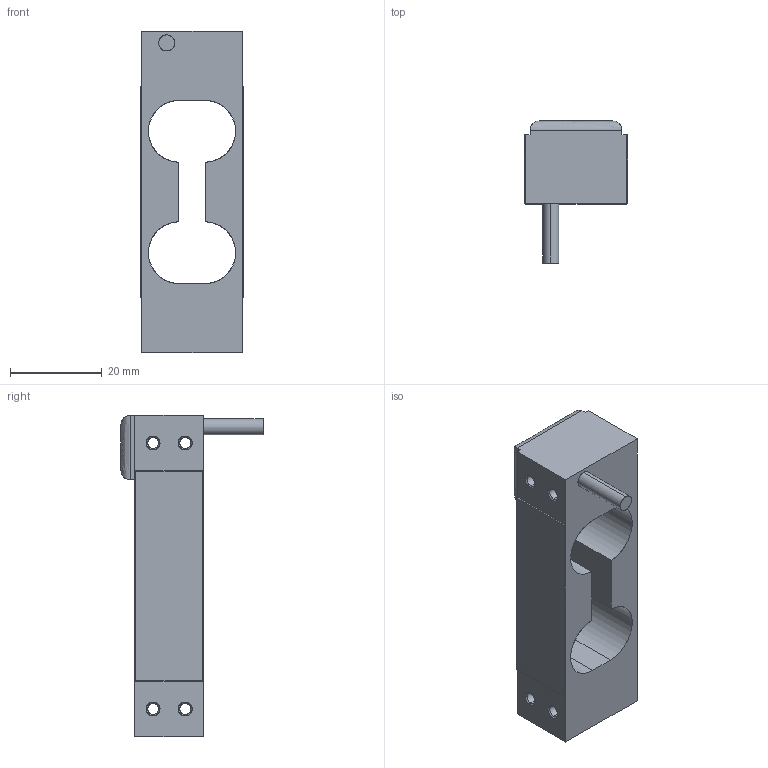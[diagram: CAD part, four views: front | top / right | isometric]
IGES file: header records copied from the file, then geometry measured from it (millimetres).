
Start section: SolidWorks IGES file using analytic representation for surfaces
Global section: file name: O:\16-Entwicklung\Projekte\03_Kraftsensoren\0206_KM202\01_Mechanik & Gehäuse\01_Solid Works\01_Outline 3D files\3D_KM202.IGS; native system: SolidWorks 2012; preprocessor: SolidWorks 2012; author: andreb; date: 131002.153143; units: millimetre
Bounding box: 22.5 x 31 x 70 mm (x, y, z)
Surface area: 7610.2 mm2 (no closed solid volume)
Topology: 0 solids, 0 shells, 105 faces, 1106 edges, 1106 vertices
Faces by surface type: revolution 74, bspline 31
